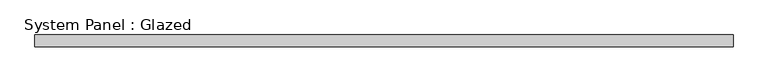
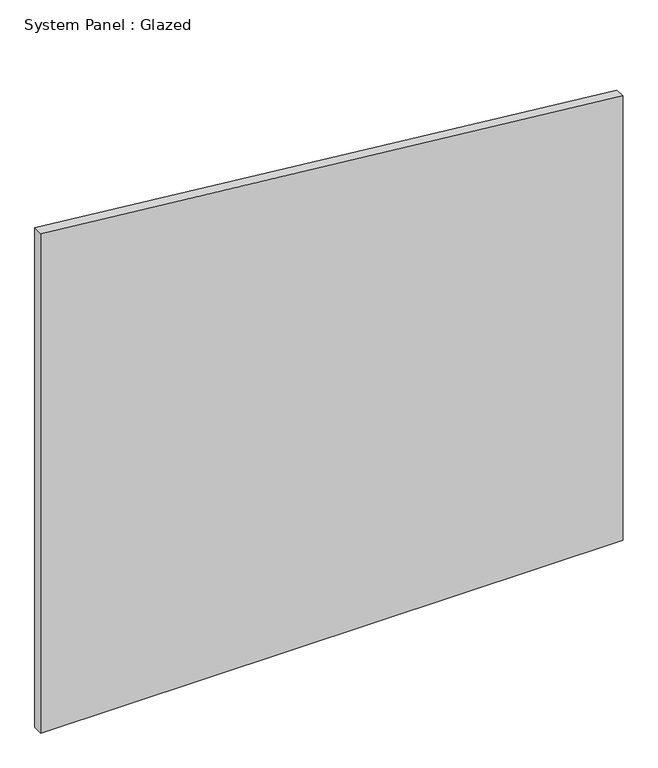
"""IFC4 building model written with IfcOpenShell, lengths in millimetres: plate geometry, System Panel : Glazed."""

from ifc_helpers import new_model, si_unit, frame, origin, place, context, project, spatial, polyline, outline, extrude, source, transform, mapped, element, save


def system_panel_glazed_2e4d03be(model_context):
    return source(origin(), model_context, "Body", "SweptSolid", [
        extrude(outline(polyline([(0.0, -735.8695652), (0.0, 735.8695652), (1186.2930191, 735.8695652), (1334.2759979, -735.8695652), (0.0, -735.8695652)])), frame((0.0, 24.5, 0.0), z_axis=(0.0, 1.0, 0.0), x_axis=(0.0, 0.0, 1.0)), (0.0, 0.0, 1.0), 25.0),
    ])


if __name__ == "__main__":
    model = new_model("IFC4")
    model_context = context("Model", 3, world=origin())
    ifc_project = project(units=[si_unit("LENGTHUNIT", "METRE", prefix="MILLI")], contexts=[model_context])
    site = spatial("IfcSite", under=ifc_project)
    building = spatial("IfcBuilding", under=site)
    placement = place(None, origin())
    system_panel_glazed_shape = system_panel_glazed_2e4d03be(model_context)
    element("IfcPlate", 1, ObjectType="System Panel : Glazed", at=placement, inside=building, context=model_context, shape_type="MappedRepresentation", body=[
        mapped(system_panel_glazed_shape, transform((0.0, 0.0, 0.0), x_axis=(1.0, 0.0, 0.0), y_axis=(0.0, 1.0, 0.0), z_axis=(0.0, 0.0, 1.0))),
    ])
    save(model, "model.ifc")
